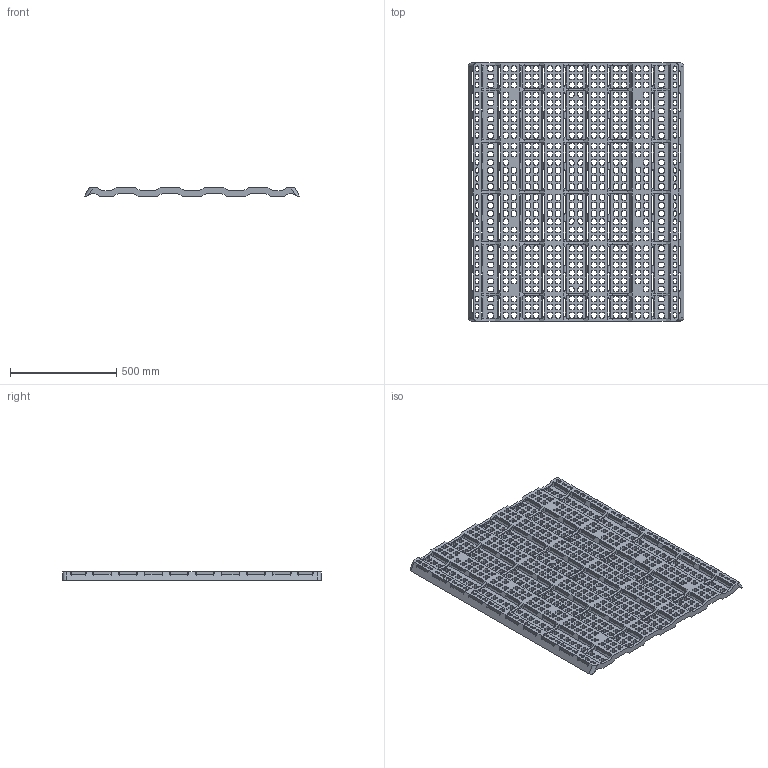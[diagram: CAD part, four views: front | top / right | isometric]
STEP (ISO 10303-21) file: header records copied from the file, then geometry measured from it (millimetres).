
FILE_DESCRIPTION(('FreeCAD Model'),'2;1');
FILE_NAME('Open CASCADE Shape Model','2024-10-07T19:48:05',(''),(''), 'Open CASCADE STEP processor 7.6','FreeCAD','Unknown');
FILE_SCHEMA(('AUTOMOTIVE_DESIGN { 1 0 10303 214 1 1 1 1 }'));
Products named in the file (1): Body002
Bounding box: 1012.95 x 1216.15 x 38.1 mm (x, y, z)
Volume: 16759433.6 mm3; surface area: 3376255.9 mm2
Topology: 1 solids, 1 shells, 5318 faces, 15924 edges, 10368 vertices
Faces by surface type: plane 2946, cylinder 2372
Entity records: 181656 total; most frequent: ORIENTED_EDGE 31848, CARTESIAN_POINT 31611, DIRECTION 31310, EDGE_CURVE 15924, LINE 11176, VECTOR 11176, VERTEX_POINT 10368, AXIS2_PLACEMENT_3D 10067
